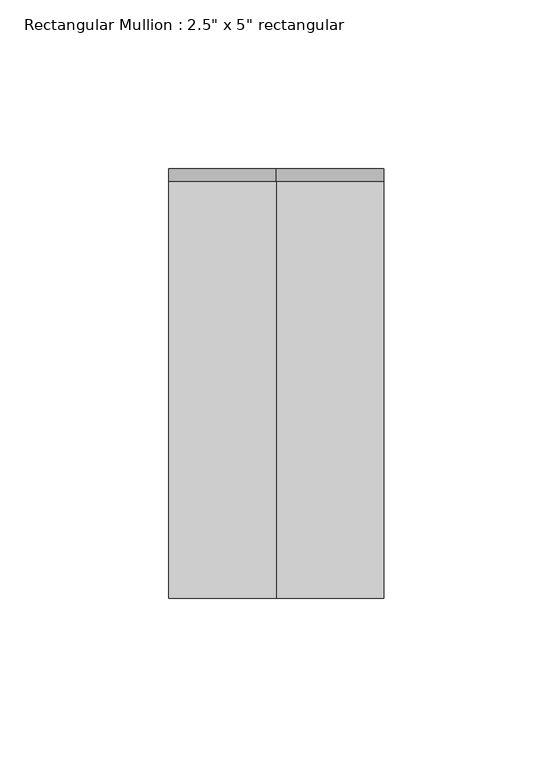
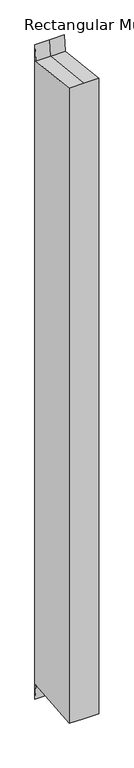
"""IFC4 building model written with IfcOpenShell, lengths in millimetres: member geometry."""

from ifc_helpers import new_model, si_unit, origin, place, context, project, spatial, faceted_brep, source, transform, mapped, element, save


def member_1666ebf7(model_context):
    return source(origin(), model_context, "Body", "Brep", [
        faceted_brep([(-31.75, 63.5, 28.422106), (0.0, 63.5, 28.422106), (31.75, 63.5, 28.422106), (31.75, 63.5, -1457.3768913), (0.0, 63.5, -1457.3768913), (-31.75, 63.5, -1457.3768913), (-31.75, -63.5, 6.4992311), (-31.75, 59.8333616, -6.4636276), (-31.75, 59.8333616, -1422.4911577), (-31.75, -63.5, -1435.4540164), (31.75, -63.5, 6.4992311), (0.0, -63.5, 6.4992311), (0.0, -63.5, -1435.4540164), (31.75, -63.5, -1435.4540164), (31.75, 59.8333616, -6.4636276), (31.75, 59.8333616, -1422.4911577), (0.0, 59.8333616, -6.4636276), (0.0, 59.8333616, -1422.4911577)], [[[0, 1, 2, 3, 4, 5]], [[6, 7, 0, 5, 8, 9]], [[10, 11, 6, 9, 12, 13]], [[2, 14, 10, 13, 15, 3]], [[2, 1, 16, 14]], [[1, 0, 7, 16]], [[7, 6, 11, 16]], [[11, 10, 14, 16]], [[3, 15, 17, 4]], [[15, 13, 12, 17]], [[12, 9, 8, 17]], [[8, 5, 4, 17]]]),
    ])


if __name__ == "__main__":
    model = new_model("IFC4")
    model_context = context("Model", 3, world=origin())
    ifc_project = project(units=[si_unit("LENGTHUNIT", "METRE", prefix="MILLI")], contexts=[model_context])
    site = spatial("IfcSite", under=ifc_project)
    building = spatial("IfcBuilding", under=site)
    placement = place(None, origin())
    member_shape = member_1666ebf7(model_context)
    element("IfcMember", 1, ObjectType="Rectangular Mullion : 2.5\" x 5\" rectangular", at=placement, inside=building, context=model_context, shape_type="MappedRepresentation", body=[
        mapped(member_shape, transform((0.0, 0.0, 0.0), x_axis=(1.0, 0.0, 0.0), y_axis=(0.0, 1.0, 0.0), z_axis=(0.0, 0.0, 1.0))),
    ])
    save(model, "model.ifc")
